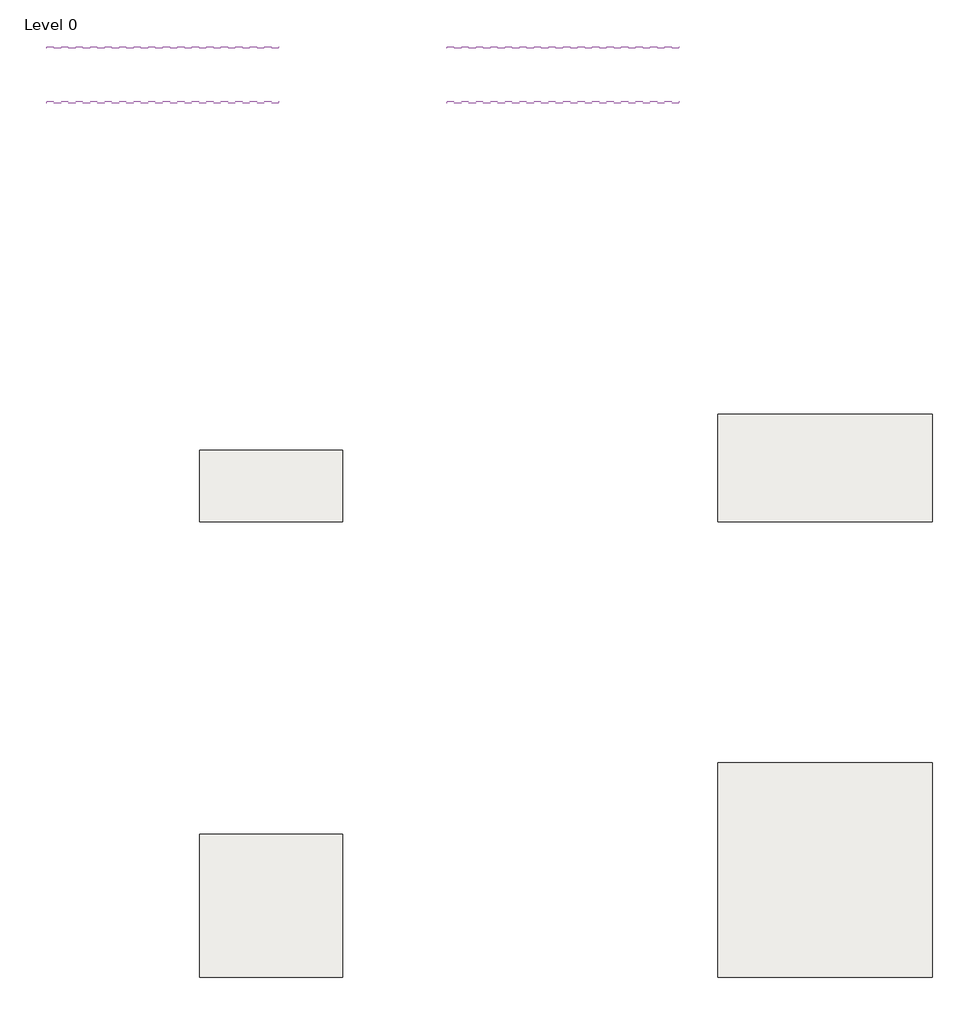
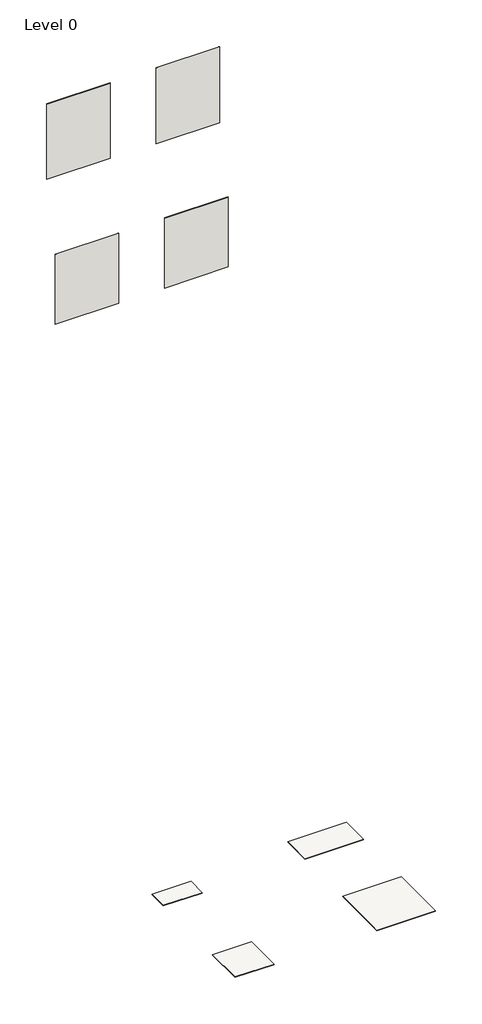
# One storey: 4 slabs, 4 walls.
"""IFC4 building model written with IfcOpenShell, lengths in millimetres."""

from ifc_helpers import new_model, si_unit, frame, origin, place, context, project, spatial, polyline, outline, extrude, element, save

model = new_model("IFC4")

# Units and contexts
model_context = context("Model", 3, world=origin())
ifc_project = project(units=[si_unit("LENGTHUNIT", "METRE", prefix="MILLI")], contexts=[model_context])

# Site, building, storey
site = spatial("IfcSite", under=ifc_project)
building = spatial("IfcBuilding", under=site)
storey = spatial("IfcBuildingStorey", under=building, Name="Level 0", Elevation=0.0)

# Slabs
placement = place(None, origin())
element("IfcSlab", 1, ObjectType="Floor_Tiles_Refin-Affrescati-Ocra-40x80 OI68", at=placement, inside=storey, context=model_context, shape_type="SweptSolid", body=[
    extrude(outline(polyline([(7574.3752062, 5888.4192064), (7574.3752062, 5488.4192064), (6774.3752062, 5488.4192064), (6774.3752062, 5888.4192064), (7574.3752062, 5888.4192064)])), frame((0.0, 0.0, -10.0), z_axis=(0.0, 0.0, 1.0), x_axis=(1.0, 0.0, 0.0)), (0.0, 0.0, 1.0), 10.0),
])
element("IfcSlab", 2, ObjectType="Floor_Tiles_Refin-Affrescati-Ocra-60x120 OH03", at=placement, inside=storey, context=model_context, shape_type="SweptSolid", body=[
    extrude(outline(polyline([(10874.3752062, 6088.4192064), (10874.3752062, 5488.4192064), (9674.3752062, 5488.4192064), (9674.3752062, 6088.4192064), (10874.3752062, 6088.4192064)])), frame((0.0, 0.0, -10.0), z_axis=(0.0, 0.0, 1.0), x_axis=(1.0, 0.0, 0.0)), (0.0, 0.0, 1.0), 10.0),
])
element("IfcSlab", 3, ObjectType="Floor_Tiles_Refin-Affrescati-Ocra-80x80 OI00", at=placement, inside=storey, context=model_context, shape_type="SweptSolid", body=[
    extrude(outline(polyline([(7574.3752062, 3738.4192064), (7574.3752062, 2938.4192064), (6774.3752062, 2938.4192064), (6774.3752062, 3738.4192064), (7574.3752062, 3738.4192064)])), frame((0.0, 0.0, -10.0), z_axis=(0.0, 0.0, 1.0), x_axis=(1.0, 0.0, 0.0)), (0.0, 0.0, 1.0), 10.0),
])
element("IfcSlab", 4, ObjectType="Floor_Tiles_Refin-Affrescati-Ocra-120x120 OG67", at=placement, inside=storey, context=model_context, shape_type="SweptSolid", body=[
    extrude(outline(polyline([(10874.3752062, 4138.4192064), (10874.3752062, 2938.4192064), (9674.3752062, 2938.4192064), (9674.3752062, 4138.4192064), (10874.3752062, 4138.4192064)])), frame((0.0, 0.0, -10.0), z_axis=(0.0, 0.0, 1.0), x_axis=(1.0, 0.0, 0.0)), (0.0, 0.0, 1.0), 10.0),
])

# Walls
element("IfcWall", 5, ObjectType="Wall_Tiles_Refin-Affrescati-Ocra-60x120 OH03", at=placement, inside=storey, context=model_context, shape_type="SweptSolid", body=[
    extrude(outline(polyline([(9457.3752062, 8132.3838631), (8157.3752062, 8132.3838631), (8157.3752062, 8142.3838631), (9457.3752062, 8142.3838631), (9457.3752062, 8132.3838631)])), frame((0.0, 0.0, 14387.6770443), z_axis=(0.0, 0.0, 1.0), x_axis=(1.0, 0.0, 0.0)), (0.0, 0.0, 1.0), 1641.7417352),
])
element("IfcWall", 6, ObjectType="Wall_Tiles_Refin-Affrescati-Ocra-40x80 OI68", at=placement, inside=storey, context=model_context, shape_type="SweptSolid", body=[
    extrude(outline(polyline([(7217.3752062, 8132.3838631), (5917.3752062, 8132.3838631), (5917.3752062, 8142.3838631), (7217.3752062, 8142.3838631), (7217.3752062, 8132.3838631)])), frame((0.0, 0.0, 14403.7267346), z_axis=(0.0, 0.0, 1.0), x_axis=(1.0, 0.0, 0.0)), (0.0, 0.0, 1.0), 1625.692045),
])
element("IfcWall", 7, ObjectType="Wall_Tiles_Refin-Affrescati-Ocra-80x80 OI00", at=placement, inside=storey, context=model_context, shape_type="SweptSolid", body=[
    extrude(outline(polyline([(7217.3752062, 7827.3838631), (5917.3752062, 7827.3838631), (5917.3752062, 7837.3838631), (7217.3752062, 7837.3838631), (7217.3752062, 7827.3838631)])), frame((0.0, 0.0, 11452.5436262), z_axis=(0.0, 0.0, 1.0), x_axis=(1.0, 0.0, 0.0)), (0.0, 0.0, 1.0), 1513.1985566),
])
element("IfcWall", 8, ObjectType="Wall_Tiles_Refin-Affrescati-Ocra-120x120 OG67", at=placement, inside=storey, context=model_context, shape_type="SweptSolid", body=[
    extrude(outline(polyline([(9457.3752062, 7827.3838631), (8157.3752062, 7827.3838631), (8157.3752062, 7837.3838631), (9457.3752062, 7837.3838631), (9457.3752062, 7827.3838631)])), frame((0.0, 0.0, 11452.5436262), z_axis=(0.0, 0.0, 1.0), x_axis=(1.0, 0.0, 0.0)), (0.0, 0.0, 1.0), 1513.1985566),
])

save(model, "model.ifc")
